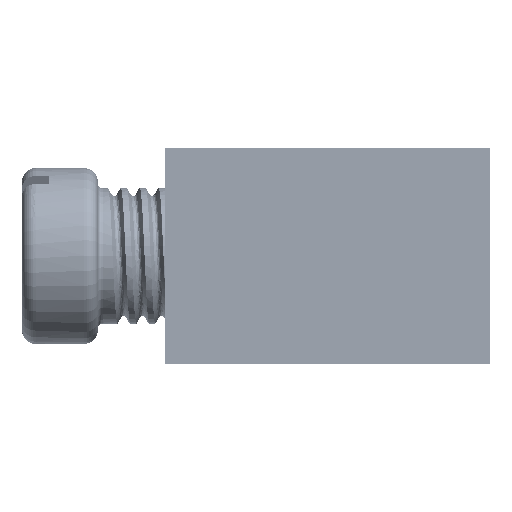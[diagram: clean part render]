
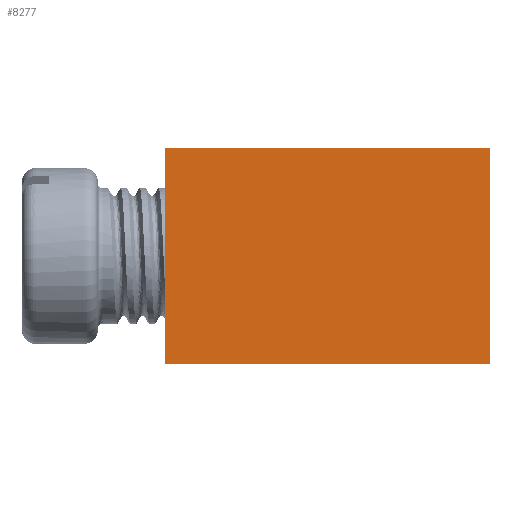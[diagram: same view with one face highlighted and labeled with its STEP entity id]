
A CAD part, left-side view. The second image highlights one B-rep face of the part: STEP entity #8277.
In plain terms, the highlighted planar face has unit normal (-1, 0, 0).
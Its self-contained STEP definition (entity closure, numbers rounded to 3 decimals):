
#431 = PLANE ( 'NONE',  #5828 ) ;
#468 = CARTESIAN_POINT ( 'NONE',  ( 0., 0., -8. ) ) ;
#530 = EDGE_CURVE ( 'NONE', #3077, #9339, #5054, .T. ) ;
#1421 = DIRECTION ( 'NONE',  ( -1., 0., 0. ) ) ;
#1466 = FACE_OUTER_BOUND ( 'NONE', #1879, .T. ) ;
#1575 = CARTESIAN_POINT ( 'NONE',  ( 0., 0., -8. ) ) ;
#1879 = EDGE_LOOP ( 'NONE', ( #8842, #3029, #9984, #9390 ) ) ;
#2007 = CARTESIAN_POINT ( 'NONE',  ( 0., 12., 0. ) ) ;
#2136 = VECTOR ( 'NONE', #11060, 1000. ) ;
#2160 = LINE ( 'NONE', #3222, #11628 ) ;
#2428 = LINE ( 'NONE', #1575, #2136 ) ;
#2501 = VECTOR ( 'NONE', #4630, 1000. ) ;
#2922 = EDGE_CURVE ( 'NONE', #11119, #3077, #2428, .T. ) ;
#3029 = ORIENTED_EDGE ( 'NONE', *, *, #5944, .F. ) ;
#3077 = VERTEX_POINT ( 'NONE', #9124 ) ;
#3222 = CARTESIAN_POINT ( 'NONE',  ( 0., 12., -8. ) ) ;
#3566 = CARTESIAN_POINT ( 'NONE',  ( 0., 0., 0. ) ) ;
#3733 = CARTESIAN_POINT ( 'NONE',  ( 0., 0., -8. ) ) ;
#4627 = CARTESIAN_POINT ( 'NONE',  ( 0., 0., 0. ) ) ;
#4630 = DIRECTION ( 'NONE',  ( 0., -1., 0. ) ) ;
#4691 = DIRECTION ( 'NONE',  ( 0., 0., 1. ) ) ;
#5054 = LINE ( 'NONE', #3733, #6724 ) ;
#5828 = AXIS2_PLACEMENT_3D ( 'NONE', #468, #1421, #8044 ) ;
#5944 = EDGE_CURVE ( 'NONE', #11119, #11091, #2160, .T. ) ;
#6724 = VECTOR ( 'NONE', #4691, 1000. ) ;
#6774 = CARTESIAN_POINT ( 'NONE',  ( 0., 12., -8. ) ) ;
#7548 = LINE ( 'NONE', #3566, #2501 ) ;
#8044 = DIRECTION ( 'NONE',  ( 0., 0., 1. ) ) ;
#8277 = ADVANCED_FACE ( 'NONE', ( #1466 ), #431, .T. ) ;
#8842 = ORIENTED_EDGE ( 'NONE', *, *, #8930, .F. ) ;
#8907 = DIRECTION ( 'NONE',  ( 0., 0., 1. ) ) ;
#8930 = EDGE_CURVE ( 'NONE', #11091, #9339, #7548, .T. ) ;
#9124 = CARTESIAN_POINT ( 'NONE',  ( 0., 0., -8. ) ) ;
#9339 = VERTEX_POINT ( 'NONE', #4627 ) ;
#9390 = ORIENTED_EDGE ( 'NONE', *, *, #530, .T. ) ;
#9984 = ORIENTED_EDGE ( 'NONE', *, *, #2922, .T. ) ;
#11060 = DIRECTION ( 'NONE',  ( 0., -1., 0. ) ) ;
#11091 = VERTEX_POINT ( 'NONE', #2007 ) ;
#11119 = VERTEX_POINT ( 'NONE', #6774 ) ;
#11628 = VECTOR ( 'NONE', #8907, 1000. ) ;
